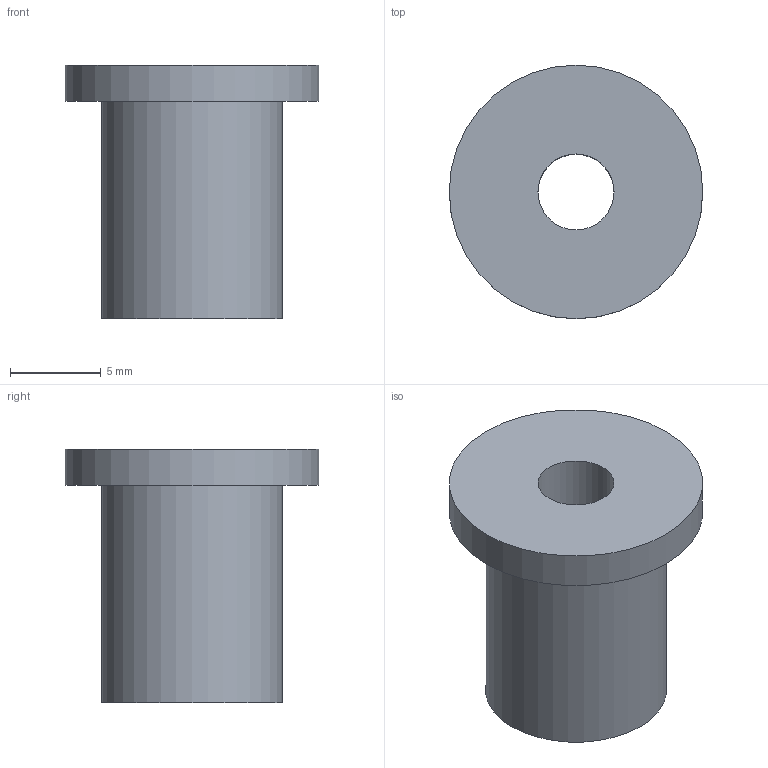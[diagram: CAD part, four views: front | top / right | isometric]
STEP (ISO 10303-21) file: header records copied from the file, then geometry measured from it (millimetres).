
FILE_DESCRIPTION(('Open CASCADE Model'),'2;1');
FILE_NAME('Open CASCADE Shape Model','2026-10-28T05:16:18',('Author'),( 'Open CASCADE'),'Open CASCADE STEP processor 7.8','Open CASCADE 7.8' ,'Unknown');
FILE_SCHEMA(('AUTOMOTIVE_DESIGN { 1 0 10303 214 1 1 1 1 }'));
Length unit declared in the file: millimetre
Products named in the file (1): Open CASCADE STEP translator 7.8 15
Bounding box: 14 x 14 x 14 mm (x, y, z)
Volume: 1056.4 mm3; surface area: 929.8 mm2
Topology: 1 solids, 1 shells, 6 faces, 9 edges, 6 vertices
Faces by surface type: cylinder 3, plane 3
Full cylindrical faces by diameter (mm): 4.2 x1, 10 x1, 14 x1
Entity records: 270 total; most frequent: DIRECTION 47, CARTESIAN_POINT 40, ORIENTED_EDGE 18, PCURVE 18, DEFINITIONAL_REPRESENTATION 18, LINE 15, VECTOR 15, AXIS2_PLACEMENT_3D 13
